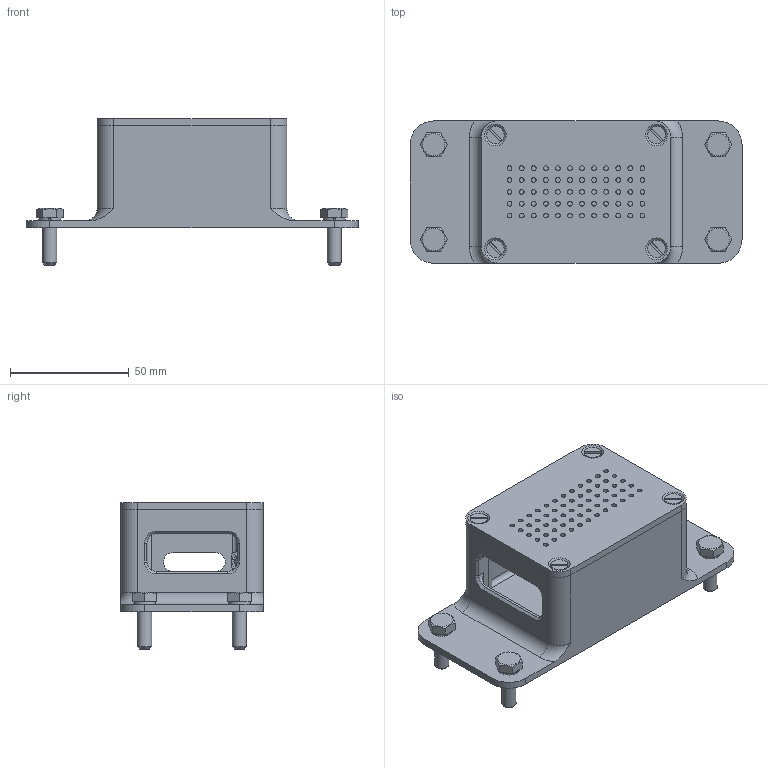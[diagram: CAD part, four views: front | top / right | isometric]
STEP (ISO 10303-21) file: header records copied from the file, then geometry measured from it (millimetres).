
FILE_DESCRIPTION(('TFLEX Exchange Step'),'2;1');
FILE_NAME('X2\041F043E\X0\ умолчанию1.stp', '2025-10-22T11:22:10+03:00',('ARM_513_VVK'),('Unknown organisation'),'TFLEX Exchange 2023.0','T-FLEX CAD','Unknown authorisation');
FILE_SCHEMA( ('AUTOMOTIVE_DESIGN { 1 0 10303 214 1 1 1 1 }') );
Length unit declared in the file: millimetre
Products named in the file (13): 3D Узел_1; 3D Узел_2; 3D Узел_3; 3D Узел_4; 3D Узел_5; 3D Узел_6; 0; Шайба 6Л ГОСТ 6402; Болт М6x20 ГОСТ 7805; Винт A.М4x16 ГОСТ 17475; Крышка-1; Корпус-1; По умолчанию1
Assembly tree (21 placements, depth 3):
  По умолчанию1
    0
      3D Узел_1
      3D Узел_2
      3D Узел_3
      3D Узел_4
      3D Узел_5
      3D Узел_6
    Шайба 6Л ГОСТ 6402  x4
    Болт М6x20 ГОСТ 7805  x4
    Винт A.М4x16 ГОСТ 17475  x4
    Крышка-1
    Корпус-1
Bounding box: 140 x 60 x 61.8 mm (x, y, z)
Volume: 82199.2 mm3; surface area: 54888.8 mm2
Topology: 17 solids, 17 shells, 406 faces, 1109 edges, 729 vertices
Faces by surface type: cylinder 180, plane 147, cone 41, torus 22, sphere 16
Full cylindrical faces by diameter (mm): 2 x60, 3.242 x4, 4 x5, 4.3 x4, 6 x5, 7 x4
Entity records: 10056 total; most frequent: CARTESIAN_POINT 1879, DIRECTION 1774, ORIENTED_EDGE 1558, EDGE_CURVE 779, AXIS2_PLACEMENT_3D 724, VERTEX_POINT 529, CIRCLE 431, EDGE_LOOP 412
